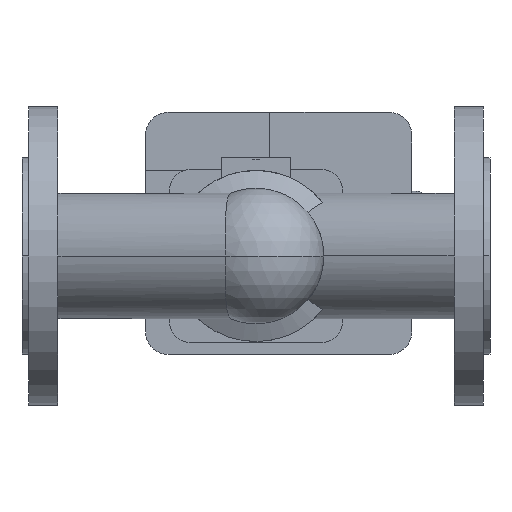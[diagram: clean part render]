
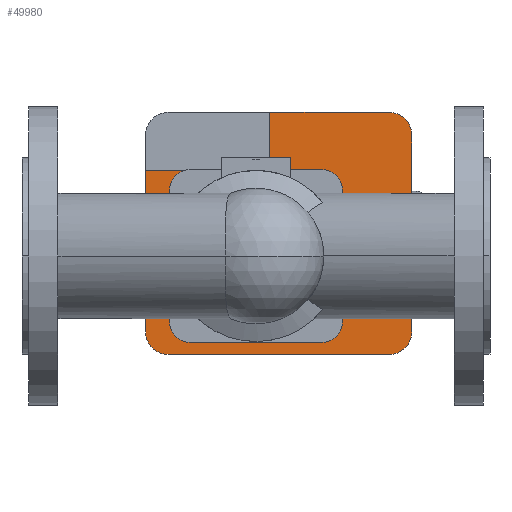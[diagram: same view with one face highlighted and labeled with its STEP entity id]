
A CAD part, front view. The second image highlights one B-rep face of the part: STEP entity #49980.
In plain terms, the highlighted planar face has unit normal (0, -1, 0).
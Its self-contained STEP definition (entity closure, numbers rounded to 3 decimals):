
#35870=CARTESIAN_POINT('',(204.96,339.,11.216));
#35880=VERTEX_POINT('',#35870);
#35910=CARTESIAN_POINT('',(195.,339.,0.));
#35920=DIRECTION('',(0.,1.,0.));
#35930=DIRECTION('',(0.,0.,1.));
#35940=AXIS2_PLACEMENT_3D('',#35910,#35920,#35930);
#35950=CIRCLE('',#35940,15.);
#35960=CARTESIAN_POINT('',(204.96,339.,-11.216));
#35970=VERTEX_POINT('',#35960);
#35980=EDGE_CURVE('',#35880,#35970,#35950,.T.);
#38700=CARTESIAN_POINT('',(187.116,339.,44.128));
#38710=VERTEX_POINT('',#38700);
#38740=CARTESIAN_POINT('',(145.,339.,0.));
#38750=DIRECTION('',(0.,1.,0.));
#38760=DIRECTION('',(0.69,0.,0.723));
#38770=AXIS2_PLACEMENT_3D('',#38740,#38750,#38760);
#38780=CIRCLE('',#38770,61.);
#38790=EDGE_CURVE('',#38710,#35880,#38780,.T.);
#39180=CARTESIAN_POINT('',(85.04,339.,-11.216));
#39190=VERTEX_POINT('',#39180);
#39220=CARTESIAN_POINT('',(95.,339.,0.));
#39230=DIRECTION('',(0.,1.,0.));
#39240=DIRECTION('',(0.,0.,-1.));
#39250=AXIS2_PLACEMENT_3D('',#39220,#39230,#39240);
#39260=CIRCLE('',#39250,15.);
#39270=CARTESIAN_POINT('',(85.04,339.,11.216));
#39280=VERTEX_POINT('',#39270);
#39290=EDGE_CURVE('',#39190,#39280,#39260,.T.);
#40280=CARTESIAN_POINT('',(102.884,339.,-44.128));
#40290=VERTEX_POINT('',#40280);
#40320=CARTESIAN_POINT('',(145.,339.,0.));
#40330=DIRECTION('',(0.,1.,0.));
#40340=DIRECTION('',(-0.69,0.,-0.723));
#40350=AXIS2_PLACEMENT_3D('',#40320,#40330,#40340);
#40360=CIRCLE('',#40350,61.);
#40370=EDGE_CURVE('',#40290,#39190,#40360,.T.);
#46020=CARTESIAN_POINT('',(241.6,339.,-47.));
#46030=VERTEX_POINT('',#46020);
#46060=CARTESIAN_POINT('',(241.6,339.,75.));
#46070=DIRECTION('',(0.,0.,-1.));
#46080=VECTOR('',#46070,1.);
#46090=LINE('',#46060,#46080);
#46100=CARTESIAN_POINT('',(241.6,339.,75.));
#46110=VERTEX_POINT('',#46100);
#46120=EDGE_CURVE('',#46110,#46030,#46090,.T.);
#46440=CARTESIAN_POINT('',(90.6,339.,-61.));
#46450=VERTEX_POINT('',#46440);
#46480=CARTESIAN_POINT('',(227.6,339.,-61.));
#46490=DIRECTION('',(-1.,0.,0.));
#46500=VECTOR('',#46490,1.);
#46510=LINE('',#46480,#46500);
#46520=CARTESIAN_POINT('',(227.6,339.,-61.));
#46530=VERTEX_POINT('',#46520);
#46540=EDGE_CURVE('',#46530,#46450,#46510,.T.);
#47140=CARTESIAN_POINT('',(227.6,339.,-47.));
#47150=DIRECTION('',(0.,1.,0.));
#47160=DIRECTION('',(1.,0.,0.));
#47170=AXIS2_PLACEMENT_3D('',#47140,#47150,#47160);
#47180=CIRCLE('',#47170,14.);
#47190=EDGE_CURVE('',#46030,#46530,#47180,.T.);
#47510=CARTESIAN_POINT('',(102.884,339.,44.128));
#47520=VERTEX_POINT('',#47510);
#47550=CARTESIAN_POINT('',(112.55,339.,34.));
#47560=DIRECTION('',(0.,1.,0.));
#47570=DIRECTION('',(-0.69,0.,0.723));
#47580=AXIS2_PLACEMENT_3D('',#47550,#47560,#47570);
#47590=CIRCLE('',#47580,14.);
#47600=CARTESIAN_POINT('',(112.55,339.,48.));
#47610=VERTEX_POINT('',#47600);
#47620=EDGE_CURVE('',#47520,#47610,#47590,.T.);
#47800=CARTESIAN_POINT('',(128.775,339.,48.));
#47810=DIRECTION('',(1.,0.,0.));
#47820=VECTOR('',#47810,1.);
#47830=LINE('',#47800,#47820);
#47840=CARTESIAN_POINT('',(177.45,339.,48.));
#47850=VERTEX_POINT('',#47840);
#47860=EDGE_CURVE('',#47610,#47850,#47830,.T.);
#48040=CARTESIAN_POINT('',(177.45,339.,34.));
#48050=DIRECTION('',(0.,1.,0.));
#48060=DIRECTION('',(0.,0.,1.));
#48070=AXIS2_PLACEMENT_3D('',#48040,#48050,#48060);
#48080=CIRCLE('',#48070,14.);
#48090=EDGE_CURVE('',#47850,#38710,#48080,.T.);
#48210=CARTESIAN_POINT('',(145.,339.,0.));
#48220=DIRECTION('',(0.,1.,0.));
#48230=DIRECTION('',(0.69,0.,0.723));
#48240=AXIS2_PLACEMENT_3D('',#48210,#48220,#48230);
#48250=CIRCLE('',#48240,61.);
#48260=CARTESIAN_POINT('',(187.116,339.,-44.128));
#48270=VERTEX_POINT('',#48260);
#48280=EDGE_CURVE('',#35970,#48270,#48250,.T.);
#48470=CARTESIAN_POINT('',(177.45,339.,-34.));
#48480=DIRECTION('',(0.,1.,0.));
#48490=DIRECTION('',(0.69,0.,-0.723));
#48500=AXIS2_PLACEMENT_3D('',#48470,#48480,#48490);
#48510=CIRCLE('',#48500,14.);
#48520=CARTESIAN_POINT('',(177.45,339.,-48.));
#48530=VERTEX_POINT('',#48520);
#48540=EDGE_CURVE('',#48270,#48530,#48510,.T.);
#48720=CARTESIAN_POINT('',(161.225,339.,-48.));
#48730=DIRECTION('',(-1.,0.,0.));
#48740=VECTOR('',#48730,1.);
#48750=LINE('',#48720,#48740);
#48760=CARTESIAN_POINT('',(112.55,339.,-48.));
#48770=VERTEX_POINT('',#48760);
#48780=EDGE_CURVE('',#48530,#48770,#48750,.T.);
#48960=CARTESIAN_POINT('',(112.55,339.,-34.));
#48970=DIRECTION('',(0.,1.,0.));
#48980=DIRECTION('',(0.,0.,-1.));
#48990=AXIS2_PLACEMENT_3D('',#48960,#48970,#48980);
#49000=CIRCLE('',#48990,14.);
#49010=EDGE_CURVE('',#48770,#40290,#49000,.T.);
#49130=CARTESIAN_POINT('',(145.,339.,0.));
#49140=DIRECTION('',(0.,1.,0.));
#49150=DIRECTION('',(-0.69,0.,-0.723));
#49160=AXIS2_PLACEMENT_3D('',#49130,#49140,#49150);
#49170=CIRCLE('',#49160,61.);
#49180=EDGE_CURVE('',#39280,#47520,#49170,.T.);
#49260=CARTESIAN_POINT('',(145.,339.,0.));
#49270=DIRECTION('',(0.,1.,0.));
#49280=DIRECTION('',(0.,0.,1.));
#49290=AXIS2_PLACEMENT_3D('',#49260,#49270,#49280);
#49300=PLANE('',#49290);
#49310=ORIENTED_EDGE('',*,*,#38790,.T.);
#49320=ORIENTED_EDGE('',*,*,#48090,.T.);
#49330=ORIENTED_EDGE('',*,*,#47860,.T.);
#49340=ORIENTED_EDGE('',*,*,#47620,.T.);
#49350=ORIENTED_EDGE('',*,*,#49180,.T.);
#49360=ORIENTED_EDGE('',*,*,#39290,.T.);
#49370=ORIENTED_EDGE('',*,*,#40370,.T.);
#49380=ORIENTED_EDGE('',*,*,#49010,.T.);
#49390=ORIENTED_EDGE('',*,*,#48780,.T.);
#49400=ORIENTED_EDGE('',*,*,#48540,.T.);
#49410=ORIENTED_EDGE('',*,*,#48280,.T.);
#49420=ORIENTED_EDGE('',*,*,#35980,.T.);
#49430=EDGE_LOOP('',(#49420,#49410,#49400,#49390,#49380,#49370,#49360,
#49350,#49340,#49330,#49320,#49310));
#49440=FACE_BOUND('',#49430,.T.);
#49450=CARTESIAN_POINT('',(153.6,339.,26.5));
#49460=DIRECTION('',(0.,0.,-1.));
#49470=VECTOR('',#49460,1.);
#49480=LINE('',#49450,#49470);
#49490=CARTESIAN_POINT('',(153.6,339.,89.));
#49500=VERTEX_POINT('',#49490);
#49510=CARTESIAN_POINT('',(153.6,339.,53.));
#49520=VERTEX_POINT('',#49510);
#49530=EDGE_CURVE('',#49500,#49520,#49480,.T.);
#49540=ORIENTED_EDGE('',*,*,#49530,.T.);
#49550=CARTESIAN_POINT('',(90.6,339.,89.));
#49560=DIRECTION('',(1.,0.,0.));
#49570=VECTOR('',#49560,1.);
#49580=LINE('',#49550,#49570);
#49590=CARTESIAN_POINT('',(227.6,339.,89.));
#49600=VERTEX_POINT('',#49590);
#49610=EDGE_CURVE('',#49500,#49600,#49580,.T.);
#49620=ORIENTED_EDGE('',*,*,#49610,.F.);
#49630=CARTESIAN_POINT('',(227.6,339.,75.));
#49640=DIRECTION('',(0.,1.,0.));
#49650=DIRECTION('',(0.,0.,1.));
#49660=AXIS2_PLACEMENT_3D('',#49630,#49640,#49650);
#49670=CIRCLE('',#49660,14.);
#49680=EDGE_CURVE('',#49600,#46110,#49670,.T.);
#49690=ORIENTED_EDGE('',*,*,#49680,.F.);
#49700=ORIENTED_EDGE('',*,*,#46120,.F.);
#49710=ORIENTED_EDGE('',*,*,#47190,.F.);
#49720=ORIENTED_EDGE('',*,*,#46540,.F.);
#49730=CARTESIAN_POINT('',(90.6,339.,-47.));
#49740=DIRECTION('',(0.,1.,0.));
#49750=DIRECTION('',(0.,0.,-1.));
#49760=AXIS2_PLACEMENT_3D('',#49730,#49740,#49750);
#49770=CIRCLE('',#49760,14.);
#49780=CARTESIAN_POINT('',(76.6,339.,-47.));
#49790=VERTEX_POINT('',#49780);
#49800=EDGE_CURVE('',#46450,#49790,#49770,.T.);
#49810=ORIENTED_EDGE('',*,*,#49800,.F.);
#49820=CARTESIAN_POINT('',(76.6,339.,-47.));
#49830=DIRECTION('',(0.,0.,1.));
#49840=VECTOR('',#49830,1.);
#49850=LINE('',#49820,#49840);
#49860=CARTESIAN_POINT('',(76.6,339.,53.));
#49870=VERTEX_POINT('',#49860);
#49880=EDGE_CURVE('',#49790,#49870,#49850,.T.);
#49890=ORIENTED_EDGE('',*,*,#49880,.F.);
#49900=CARTESIAN_POINT('',(110.3,339.,53.));
#49910=DIRECTION('',(-1.,0.,0.));
#49920=VECTOR('',#49910,1.);
#49930=LINE('',#49900,#49920);
#49940=EDGE_CURVE('',#49520,#49870,#49930,.T.);
#49950=ORIENTED_EDGE('',*,*,#49940,.T.);
#49960=EDGE_LOOP('',(#49950,#49890,#49810,#49720,#49710,#49700,#49690,
#49620,#49540));
#49970=FACE_OUTER_BOUND('',#49960,.T.);
#49980=ADVANCED_FACE('',(#49440,#49970),#49300,.F.);
